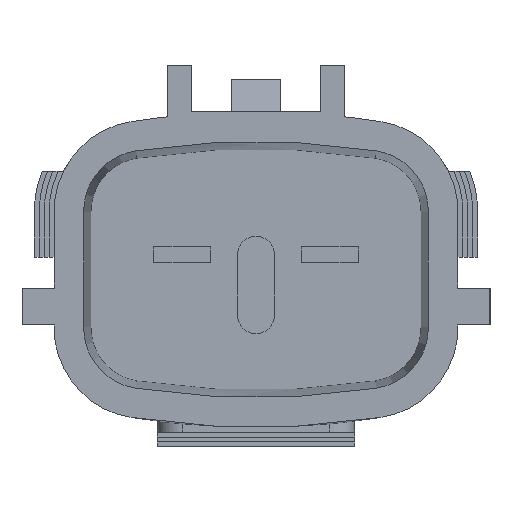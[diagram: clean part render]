
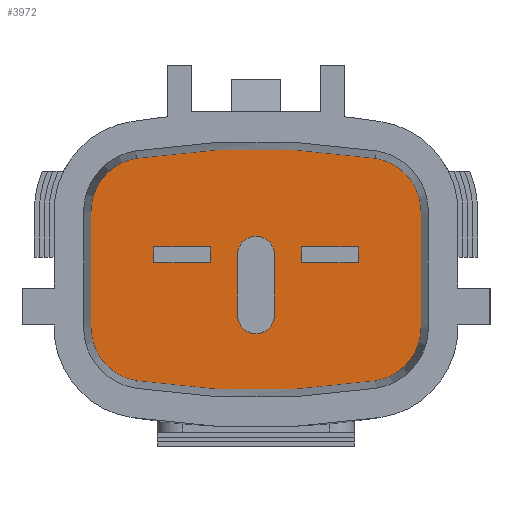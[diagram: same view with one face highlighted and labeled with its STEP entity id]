
A CAD part, left-side view. The second image highlights one B-rep face of the part: STEP entity #3972.
In plain terms, the highlighted planar face has unit normal (-1, 0, 0).
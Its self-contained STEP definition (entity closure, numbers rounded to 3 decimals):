
#3133=AXIS2_PLACEMENT_3D('Circle Axis2P3D',#3131,#3132,$) ;
#3164=AXIS2_PLACEMENT_3D('Circle Axis2P3D',#3162,#3163,$) ;
#3188=AXIS2_PLACEMENT_3D('Circle Axis2P3D',#3186,#3187,$) ;
#3236=AXIS2_PLACEMENT_3D('Circle Axis2P3D',#3234,#3235,$) ;
#3260=AXIS2_PLACEMENT_3D('Circle Axis2P3D',#3258,#3259,$) ;
#3284=AXIS2_PLACEMENT_3D('Circle Axis2P3D',#3282,#3283,$) ;
#3822=AXIS2_PLACEMENT_3D('Circle Axis2P3D',#3820,#3821,$) ;
#3829=AXIS2_PLACEMENT_3D('Circle Axis2P3D',#3827,#3828,$) ;
#3858=AXIS2_PLACEMENT_3D('Plane Axis2P3D',#3855,#3856,#3857) ;
#3872=AXIS2_PLACEMENT_3D('Circle Axis2P3D',#3870,#3871,$) ;
#3893=AXIS2_PLACEMENT_3D('Circle Axis2P3D',#3891,#3892,$) ;
#3131=CARTESIAN_POINT('Axis2P3D Location',(14.2,-4.5,2.349)) ;
#3135=CARTESIAN_POINT('Vertex',(14.2,-6.7,2.349)) ;
#3137=CARTESIAN_POINT('Vertex',(14.2,-4.841,4.522)) ;
#3162=CARTESIAN_POINT('Axis2P3D Location',(14.2,0.,-26.3)) ;
#3166=CARTESIAN_POINT('Vertex',(14.2,4.841,4.522)) ;
#3186=CARTESIAN_POINT('Axis2P3D Location',(14.2,4.5,2.349)) ;
#3190=CARTESIAN_POINT('Vertex',(14.2,6.7,2.349)) ;
#3210=CARTESIAN_POINT('Line Origine',(14.2,6.7,0.)) ;
#3214=CARTESIAN_POINT('Vertex',(14.2,6.7,-2.349)) ;
#3234=CARTESIAN_POINT('Axis2P3D Location',(14.2,4.5,-2.349)) ;
#3238=CARTESIAN_POINT('Vertex',(14.2,4.841,-4.522)) ;
#3258=CARTESIAN_POINT('Axis2P3D Location',(14.2,0.,26.3)) ;
#3262=CARTESIAN_POINT('Vertex',(14.2,-4.841,-4.522)) ;
#3282=CARTESIAN_POINT('Axis2P3D Location',(14.2,-4.5,-2.349)) ;
#3286=CARTESIAN_POINT('Vertex',(14.2,-6.7,-2.349)) ;
#3306=CARTESIAN_POINT('Line Origine',(14.2,-6.7,0.)) ;
#3817=CARTESIAN_POINT('Vertex',(14.2,-0.75,0.6)) ;
#3820=CARTESIAN_POINT('Axis2P3D Location',(14.2,0.,0.6)) ;
#3824=CARTESIAN_POINT('Vertex',(14.2,0.,1.35)) ;
#3827=CARTESIAN_POINT('Axis2P3D Location',(14.2,0.,0.6)) ;
#3831=CARTESIAN_POINT('Vertex',(14.2,0.75,0.6)) ;
#3855=CARTESIAN_POINT('Axis2P3D Location',(14.2,0.,0.)) ;
#3870=CARTESIAN_POINT('Axis2P3D Location',(14.2,0.,-1.85)) ;
#3874=CARTESIAN_POINT('Vertex',(14.2,0.75,-1.85)) ;
#3876=CARTESIAN_POINT('Vertex',(14.2,0.,-2.6)) ;
#3879=CARTESIAN_POINT('Line Origine',(14.2,0.75,-0.625)) ;
#3884=CARTESIAN_POINT('Line Origine',(14.2,-0.75,-0.625)) ;
#3888=CARTESIAN_POINT('Vertex',(14.2,-0.75,-1.85)) ;
#3891=CARTESIAN_POINT('Axis2P3D Location',(14.2,0.,-1.85)) ;
#3904=CARTESIAN_POINT('Line Origine',(14.2,1.85,0.6)) ;
#3908=CARTESIAN_POINT('Vertex',(14.2,1.85,0.28)) ;
#3910=CARTESIAN_POINT('Vertex',(14.2,1.85,0.92)) ;
#3913=CARTESIAN_POINT('Line Origine',(14.2,3.,0.28)) ;
#3917=CARTESIAN_POINT('Vertex',(14.2,4.15,0.28)) ;
#3920=CARTESIAN_POINT('Line Origine',(14.2,4.15,0.6)) ;
#3924=CARTESIAN_POINT('Vertex',(14.2,4.15,0.92)) ;
#3927=CARTESIAN_POINT('Line Origine',(14.2,3.,0.92)) ;
#3938=CARTESIAN_POINT('Line Origine',(14.2,-4.15,0.6)) ;
#3942=CARTESIAN_POINT('Vertex',(14.2,-4.15,0.28)) ;
#3944=CARTESIAN_POINT('Vertex',(14.2,-4.15,0.92)) ;
#3947=CARTESIAN_POINT('Line Origine',(14.2,-3.,0.28)) ;
#3951=CARTESIAN_POINT('Vertex',(14.2,-1.85,0.28)) ;
#3954=CARTESIAN_POINT('Line Origine',(14.2,-1.85,0.6)) ;
#3958=CARTESIAN_POINT('Vertex',(14.2,-1.85,0.92)) ;
#3961=CARTESIAN_POINT('Line Origine',(14.2,-3.,0.92)) ;
#3132=DIRECTION('Axis2P3D Direction',(-1.,0.,0.)) ;
#3163=DIRECTION('Axis2P3D Direction',(-1.,0.,0.)) ;
#3187=DIRECTION('Axis2P3D Direction',(-1.,0.,0.)) ;
#3211=DIRECTION('Vector Direction',(0.,0.,-1.)) ;
#3235=DIRECTION('Axis2P3D Direction',(-1.,0.,0.)) ;
#3259=DIRECTION('Axis2P3D Direction',(-1.,0.,0.)) ;
#3283=DIRECTION('Axis2P3D Direction',(-1.,0.,0.)) ;
#3307=DIRECTION('Vector Direction',(0.,0.,-1.)) ;
#3821=DIRECTION('Axis2P3D Direction',(-1.,0.,0.)) ;
#3828=DIRECTION('Axis2P3D Direction',(-1.,0.,0.)) ;
#3856=DIRECTION('Axis2P3D Direction',(1.,0.,0.)) ;
#3857=DIRECTION('Axis2P3D XDirection',(0.,1.,0.)) ;
#3871=DIRECTION('Axis2P3D Direction',(1.,0.,0.)) ;
#3880=DIRECTION('Vector Direction',(0.,0.,-1.)) ;
#3885=DIRECTION('Vector Direction',(0.,0.,1.)) ;
#3892=DIRECTION('Axis2P3D Direction',(1.,0.,0.)) ;
#3905=DIRECTION('Vector Direction',(0.,0.,1.)) ;
#3914=DIRECTION('Vector Direction',(0.,1.,0.)) ;
#3921=DIRECTION('Vector Direction',(0.,0.,-1.)) ;
#3928=DIRECTION('Vector Direction',(0.,-1.,0.)) ;
#3939=DIRECTION('Vector Direction',(0.,0.,1.)) ;
#3948=DIRECTION('Vector Direction',(0.,1.,0.)) ;
#3955=DIRECTION('Vector Direction',(0.,0.,-1.)) ;
#3962=DIRECTION('Vector Direction',(0.,-1.,0.)) ;
#3212=VECTOR('Line Direction',#3211,1.) ;
#3308=VECTOR('Line Direction',#3307,1.) ;
#3881=VECTOR('Line Direction',#3880,1.) ;
#3886=VECTOR('Line Direction',#3885,1.) ;
#3906=VECTOR('Line Direction',#3905,1.) ;
#3915=VECTOR('Line Direction',#3914,1.) ;
#3922=VECTOR('Line Direction',#3921,1.) ;
#3929=VECTOR('Line Direction',#3928,1.) ;
#3940=VECTOR('Line Direction',#3939,1.) ;
#3949=VECTOR('Line Direction',#3948,1.) ;
#3956=VECTOR('Line Direction',#3955,1.) ;
#3963=VECTOR('Line Direction',#3962,1.) ;
#3861=ORIENTED_EDGE('',*,*,#3310,.F.) ;
#3862=ORIENTED_EDGE('',*,*,#3139,.T.) ;
#3863=ORIENTED_EDGE('',*,*,#3168,.T.) ;
#3864=ORIENTED_EDGE('',*,*,#3192,.T.) ;
#3865=ORIENTED_EDGE('',*,*,#3216,.T.) ;
#3866=ORIENTED_EDGE('',*,*,#3240,.T.) ;
#3867=ORIENTED_EDGE('',*,*,#3264,.T.) ;
#3868=ORIENTED_EDGE('',*,*,#3288,.T.) ;
#3897=ORIENTED_EDGE('',*,*,#3878,.F.) ;
#3898=ORIENTED_EDGE('',*,*,#3883,.F.) ;
#3899=ORIENTED_EDGE('',*,*,#3833,.F.) ;
#3900=ORIENTED_EDGE('',*,*,#3826,.F.) ;
#3901=ORIENTED_EDGE('',*,*,#3890,.F.) ;
#3902=ORIENTED_EDGE('',*,*,#3895,.F.) ;
#3933=ORIENTED_EDGE('',*,*,#3912,.F.) ;
#3934=ORIENTED_EDGE('',*,*,#3919,.T.) ;
#3935=ORIENTED_EDGE('',*,*,#3926,.F.) ;
#3936=ORIENTED_EDGE('',*,*,#3931,.T.) ;
#3967=ORIENTED_EDGE('',*,*,#3946,.F.) ;
#3968=ORIENTED_EDGE('',*,*,#3953,.T.) ;
#3969=ORIENTED_EDGE('',*,*,#3960,.F.) ;
#3970=ORIENTED_EDGE('',*,*,#3965,.T.) ;
#3903=FACE_BOUND('',#3896,.T.) ;
#3937=FACE_BOUND('',#3932,.T.) ;
#3971=FACE_BOUND('',#3966,.T.) ;
#3972=ADVANCED_FACE('\X2\FF8EFF9EFF83FF9EFF68FF70\X0\.11',(#3869,#3903,#3937,#3971),#3859,.F.) ;
#3134=CIRCLE('generated circle',#3133,2.2) ;
#3165=CIRCLE('generated circle',#3164,31.2) ;
#3189=CIRCLE('generated circle',#3188,2.2) ;
#3237=CIRCLE('generated circle',#3236,2.2) ;
#3261=CIRCLE('generated circle',#3260,31.2) ;
#3285=CIRCLE('generated circle',#3284,2.2) ;
#3823=CIRCLE('generated circle',#3822,0.75) ;
#3830=CIRCLE('generated circle',#3829,0.75) ;
#3873=CIRCLE('generated circle',#3872,0.75) ;
#3894=CIRCLE('generated circle',#3893,0.75) ;
#3139=EDGE_CURVE('',#3136,#3138,#3134,.T.) ;
#3168=EDGE_CURVE('',#3138,#3167,#3165,.T.) ;
#3192=EDGE_CURVE('',#3167,#3191,#3189,.T.) ;
#3216=EDGE_CURVE('',#3191,#3215,#3213,.T.) ;
#3240=EDGE_CURVE('',#3215,#3239,#3237,.T.) ;
#3264=EDGE_CURVE('',#3239,#3263,#3261,.T.) ;
#3288=EDGE_CURVE('',#3263,#3287,#3285,.T.) ;
#3310=EDGE_CURVE('',#3136,#3287,#3309,.T.) ;
#3826=EDGE_CURVE('',#3818,#3825,#3823,.T.) ;
#3833=EDGE_CURVE('',#3825,#3832,#3830,.T.) ;
#3878=EDGE_CURVE('',#3875,#3877,#3873,.F.) ;
#3883=EDGE_CURVE('',#3832,#3875,#3882,.T.) ;
#3890=EDGE_CURVE('',#3889,#3818,#3887,.T.) ;
#3895=EDGE_CURVE('',#3877,#3889,#3894,.F.) ;
#3912=EDGE_CURVE('',#3909,#3911,#3907,.T.) ;
#3919=EDGE_CURVE('',#3909,#3918,#3916,.T.) ;
#3926=EDGE_CURVE('',#3925,#3918,#3923,.T.) ;
#3931=EDGE_CURVE('',#3925,#3911,#3930,.T.) ;
#3946=EDGE_CURVE('',#3943,#3945,#3941,.T.) ;
#3953=EDGE_CURVE('',#3943,#3952,#3950,.T.) ;
#3960=EDGE_CURVE('',#3959,#3952,#3957,.T.) ;
#3965=EDGE_CURVE('',#3959,#3945,#3964,.T.) ;
#3860=EDGE_LOOP('',(#3861,#3862,#3863,#3864,#3865,#3866,#3867,#3868)) ;
#3896=EDGE_LOOP('',(#3897,#3898,#3899,#3900,#3901,#3902)) ;
#3932=EDGE_LOOP('',(#3933,#3934,#3935,#3936)) ;
#3966=EDGE_LOOP('',(#3967,#3968,#3969,#3970)) ;
#3869=FACE_OUTER_BOUND('',#3860,.T.) ;
#3213=LINE('Line',#3210,#3212) ;
#3309=LINE('Line',#3306,#3308) ;
#3882=LINE('Line',#3879,#3881) ;
#3887=LINE('Line',#3884,#3886) ;
#3907=LINE('Line',#3904,#3906) ;
#3916=LINE('Line',#3913,#3915) ;
#3923=LINE('Line',#3920,#3922) ;
#3930=LINE('Line',#3927,#3929) ;
#3941=LINE('Line',#3938,#3940) ;
#3950=LINE('Line',#3947,#3949) ;
#3957=LINE('Line',#3954,#3956) ;
#3964=LINE('Line',#3961,#3963) ;
#3859=PLANE('',#3858) ;
#3136=VERTEX_POINT('',#3135) ;
#3138=VERTEX_POINT('',#3137) ;
#3167=VERTEX_POINT('',#3166) ;
#3191=VERTEX_POINT('',#3190) ;
#3215=VERTEX_POINT('',#3214) ;
#3239=VERTEX_POINT('',#3238) ;
#3263=VERTEX_POINT('',#3262) ;
#3287=VERTEX_POINT('',#3286) ;
#3818=VERTEX_POINT('',#3817) ;
#3825=VERTEX_POINT('',#3824) ;
#3832=VERTEX_POINT('',#3831) ;
#3875=VERTEX_POINT('',#3874) ;
#3877=VERTEX_POINT('',#3876) ;
#3889=VERTEX_POINT('',#3888) ;
#3909=VERTEX_POINT('',#3908) ;
#3911=VERTEX_POINT('',#3910) ;
#3918=VERTEX_POINT('',#3917) ;
#3925=VERTEX_POINT('',#3924) ;
#3943=VERTEX_POINT('',#3942) ;
#3945=VERTEX_POINT('',#3944) ;
#3952=VERTEX_POINT('',#3951) ;
#3959=VERTEX_POINT('',#3958) ;
